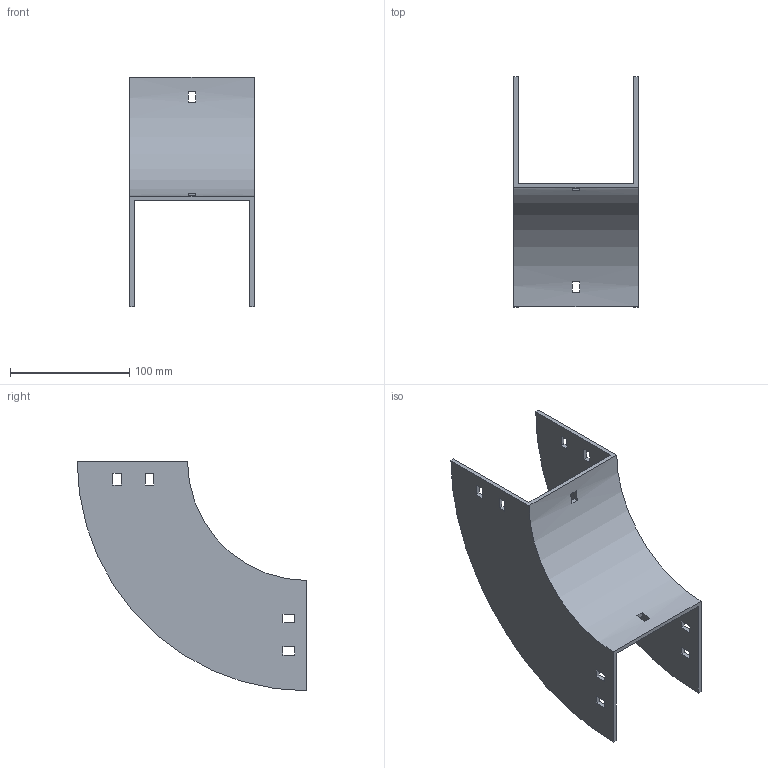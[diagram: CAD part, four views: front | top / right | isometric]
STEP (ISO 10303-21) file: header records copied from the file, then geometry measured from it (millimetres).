
FILE_DESCRIPTION (( 'STEP AP214' ), '1' );
FILE_NAME ('33B1I100.step', '2025-02-21T09:32:57', ( '' ), ( '' ), 'SwSTEP 2.0', 'SolidWorks 2023', '' );
FILE_SCHEMA (( 'AUTOMOTIVE_DESIGN' ));
Length unit declared in the file: millimetre
Products named in the file (1): 33B1I100
Bounding box: 104 x 192.5 x 192.5 mm (x, y, z)
Volume: 200636.1 mm3; surface area: 119892.7 mm2
Topology: 1 solids, 1 shells, 50 faces, 144 edges, 96 vertices
Faces by surface type: plane 46, cylinder 4
Entity records: 1687 total; most frequent: CARTESIAN_POINT 291, ORIENTED_EDGE 288, DIRECTION 262, EDGE_CURVE 144, VECTOR 128, LINE 128, VERTEX_POINT 96, EDGE_LOOP 70
